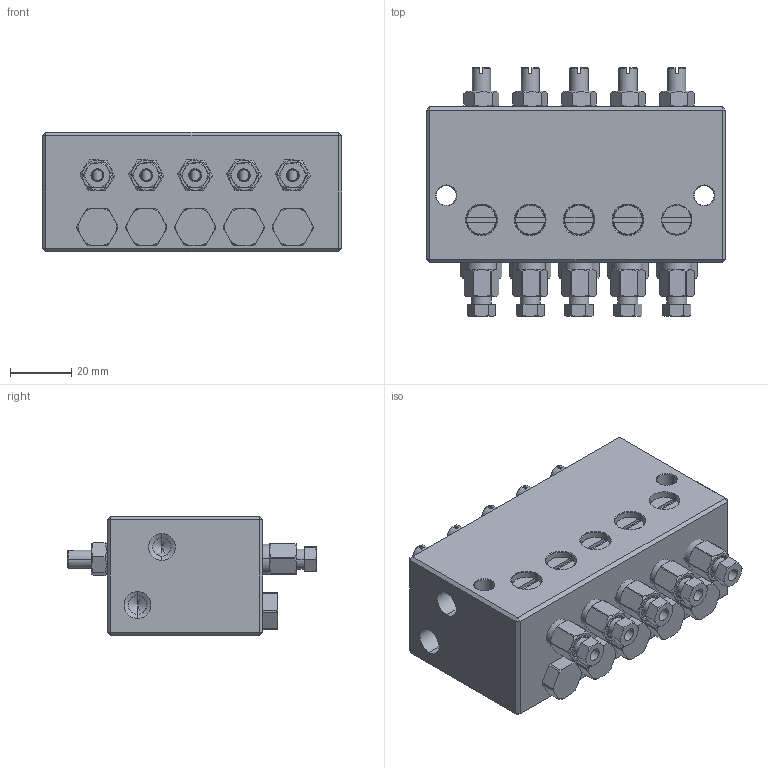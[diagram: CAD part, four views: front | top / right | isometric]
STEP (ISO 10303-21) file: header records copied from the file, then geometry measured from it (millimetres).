
FILE_DESCRIPTION (( 'STEP AP203' ), '1' );
FILE_NAME ('AO-5STEP.STEP', '2020-04-18T07:01:57', ( '个人用户' ), ( '微软中国' ), 'SwSTEP 2.0', 'SolidWorks 2018', '' );
FILE_SCHEMA (( 'CONFIG_CONTROL_DESIGN' ));
Length unit declared in the file: millimetre
Products named in the file (16): 油气容积式分配器; 諾ァ覃誹裝; 縐杶; 絳砃裝; AO-5STEP; 苤粟銅釱; 黑芛; o-rings series a gb_GB-T 3452.1 4x1.8-A; 縐杶蹟譫; 覃誹裝; 躇猾俖; 密封圈; 絳砃杶; e rings gb_GB_CONNECTING_PIECE_RINGS_HR 3; 蚐ァ諉芛; hex nuts, style 1-grades ab gb_GB_FASTENER_NUT_SNAB1 M6-N
Assembly tree (71 placements, depth 2):
  AO-5STEP
    油气容积式分配器
    黑芛  x5
    絳砃裝  x5
    e rings gb_GB_CONNECTING_PIECE_RINGS_HR 3  x5
    絳砃杶  x5
    o-rings series a gb_GB-T 3452.1 4x1.8-A  x5
    躇猾俖  x5
    覃誹裝  x5
    苤粟銅釱  x5
    密封圈  x5
    諾ァ覃誹裝  x5
    hex nuts, style 1-grades ab gb_GB_FASTENER_NUT_SNAB1 M6-N  x5
    蚐ァ諉芛  x5
    縐杶蹟譫  x5
    縐杶  x5
Bounding box: 98 x 81.54 x 39 mm (x, y, z)
Volume: 189283.4 mm3; surface area: 62605.4 mm2
Topology: 71 solids, 71 shells, 1999 faces, 4527 edges, 2793 vertices
Faces by surface type: cylinder 772, cone 680, plane 517, torus 20, bspline 10
Entity records: 23814 total; most frequent: CARTESIAN_POINT 5042, DIRECTION 3572, ORIENTED_EDGE 3018, EDGE_CURVE 1509, AXIS2_PLACEMENT_3D 1479, VERTEX_POINT 933, EDGE_LOOP 778, CIRCLE 752
